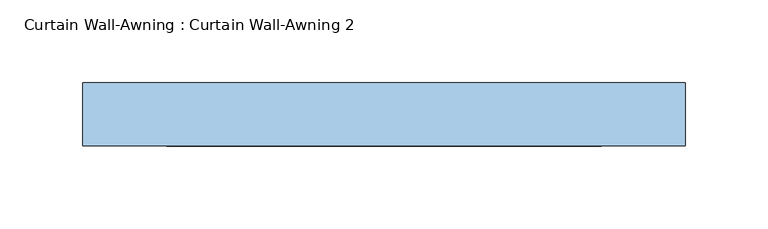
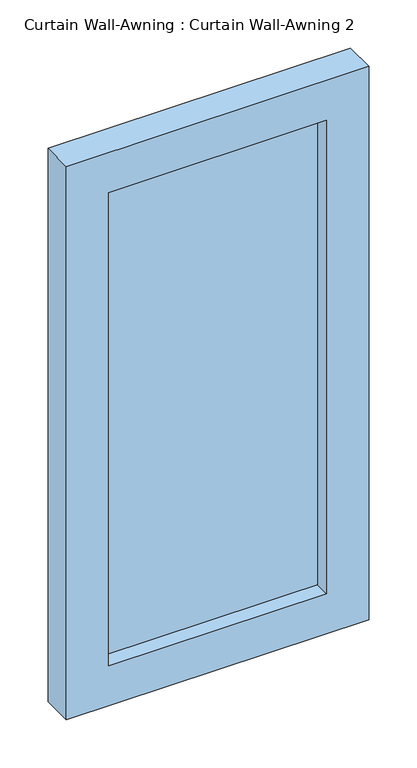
"""IFC4 building model written with IfcOpenShell, lengths in millimetres: window geometry, Curtain Wall-Awning : Curtain Wall-Awning 2."""

from ifc_helpers import new_model, si_unit, frame, origin, place, context, project, spatial, polyline, outline, extrude, source, transform, mapped, element, save


def curtain_wall_awning_curtain_wall_awning_2_4fba72c2(model_context):
    return source(origin(), model_context, "Body", "SweptSolid", [
        extrude(outline(polyline([(130.985778, -19.05), (-130.985778, -19.05), (-130.985778, -6.35), (130.985778, -6.35), (130.985778, -19.05)])), frame((0.0, 0.0, 50.8), z_axis=(0.0, 0.0, 1.0), x_axis=(1.0, 0.0, 0.0)), (0.0, 0.0, 1.0), 601.1586377),
        extrude(outline(polyline([(702.7586377, -181.785778), (0.0, -181.785778), (0.0, 181.785778), (702.7586377, 181.785778), (702.7586377, -181.785778)]), holes=[polyline([(651.9586377, -130.985778), (651.9586377, 130.985778), (50.8, 130.985778), (50.8, -130.985778), (651.9586377, -130.985778)])]), frame((0.0, -38.1, 0.0), z_axis=(0.0, 1.0, 0.0), x_axis=(0.0, 0.0, 1.0)), (0.0, 0.0, 1.0), 38.1),
    ])


if __name__ == "__main__":
    model = new_model("IFC4")
    model_context = context("Model", 3, world=origin())
    ifc_project = project(units=[si_unit("LENGTHUNIT", "METRE", prefix="MILLI")], contexts=[model_context])
    site = spatial("IfcSite", under=ifc_project)
    building = spatial("IfcBuilding", under=site)
    placement = place(None, origin())
    curtain_wall_awning_curtain_wall_awning_2_shape = curtain_wall_awning_curtain_wall_awning_2_4fba72c2(model_context)
    element("IfcWindow", 1, ObjectType="Curtain Wall-Awning : Curtain Wall-Awning 2", at=placement, inside=building, context=model_context, shape_type="MappedRepresentation", body=[
        mapped(curtain_wall_awning_curtain_wall_awning_2_shape, transform((0.0, 0.0, 0.0), x_axis=(1.0, 0.0, 0.0), y_axis=(0.0, 1.0, 0.0), z_axis=(0.0, 0.0, 1.0))),
    ])
    save(model, "model.ifc")
